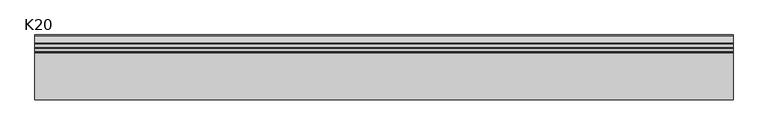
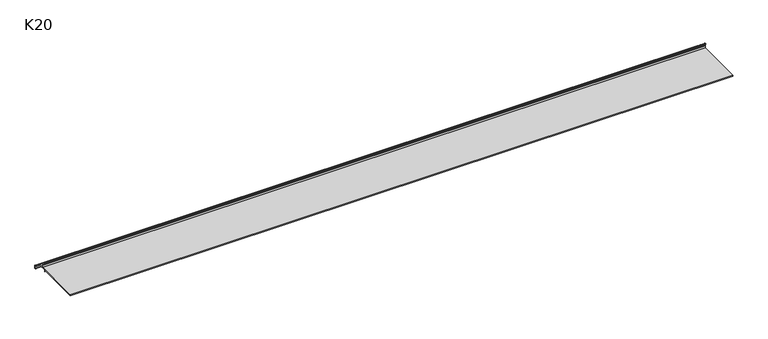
"""IFC4 building model written with IfcOpenShell, lengths in millimetres: proxy geometry, K20 Profil okapowy prosty : K20."""

import ifcopenshell
import ifcopenshell.guid

model = None  # the IFC model being written
_history = None  # IfcOwnerHistory: only IFC2X3 demands one
_inside = {}  # id of a spatial element -> (the spatial element, [elements in it])
_under = {}  # id of a project, library or spatial element -> (it, [spatial elements below it])
_declared = {}  # id of a project -> (the project, [libraries it declares])
_typed = {}  # id of a type object -> (the type object, [elements of that type])
_made_of = {}  # id of a material, layer set ... -> (it, [elements and type objects made of it])


def new_model(schema):
    """Start an empty IFC model of exactly this schema.

    Asked for "IFC4X3", IfcOpenShell would pick the latest addendum, in which some entities
    have other attributes; the version numbers below select the first issue.
    IFC2X3 requires an IfcOwnerHistory on every rooted entity: one is made here for all.
    """
    global model, _history
    if schema == "IFC4X3":
        model = ifcopenshell.file(schema_version=(4, 3, 0, 0))
    else:
        model = ifcopenshell.file(schema=schema)
    _inside.clear()
    _under.clear()
    _declared.clear()
    _typed.clear()
    _made_of.clear()
    _history = None
    if model.schema == "IFC2X3":
        org = make("IfcOrganization", Name="unknown")
        user = make(
            "IfcPersonAndOrganization",
            ThePerson=make("IfcPerson", FamilyName="unknown"),
            TheOrganization=org,
        )
        app = make(
            "IfcApplication",
            ApplicationDeveloper=org,
            Version="unknown",
            ApplicationFullName="unknown",
            ApplicationIdentifier="unknown",
        )
        _history = make(
            "IfcOwnerHistory",
            OwningUser=user,
            OwningApplication=app,
            ChangeAction="ADDED",
            CreationDate=0,
        )
    return model


def make(cls, **values):
    """One entity of the class cls with the attributes given. An attribute that is None is left unset."""
    return model.create_entity(
        cls, **{name: value for name, value in values.items() if value is not None}
    )


def rooted(cls, **values):
    """An entity with a GlobalId (a new one), such as an element, a storey or a relation."""
    return make(cls, GlobalId=ifcopenshell.guid.new(), OwnerHistory=_history, **values)


def si_unit(unit_type, name, prefix=None):
    """IfcSIUnit, for example si_unit("LENGTHUNIT", "METRE", prefix="MILLI")."""
    return make("IfcSIUnit", UnitType=unit_type, Prefix=prefix, Name=name)


def assignment(units):
    """IfcUnitAssignment: the units of a project."""
    return None if units is None else make("IfcUnitAssignment", Units=units)


def point(xyz):
    """IfcCartesianPoint."""
    return None if xyz is None else make("IfcCartesianPoint", Coordinates=xyz)


def direction(xyz):
    """IfcDirection."""
    return None if xyz is None else make("IfcDirection", DirectionRatios=xyz)


def frame(location, z_axis=None, x_axis=None):
    """IfcAxis2Placement3D, a coordinate frame: its origin and axes. An axis left out is left unset."""
    return make(
        "IfcAxis2Placement3D",
        Location=point(location),
        Axis=direction(z_axis),
        RefDirection=direction(x_axis),
    )


def origin():
    """The frame at (0, 0, 0) with its axes left unset."""
    return frame((0.0, 0.0, 0.0))


def place(relative_to, where):
    """IfcLocalPlacement: puts the frame where relative to a parent placement (None: the world)."""
    return make(
        "IfcLocalPlacement", PlacementRelTo=relative_to, RelativePlacement=where
    )


def context(
    kind, dimensions, precision=None, world=None, true_north=None, identifier=None
):
    """IfcGeometricRepresentationContext, for example the 3D "Model" context."""
    return make(
        "IfcGeometricRepresentationContext",
        ContextIdentifier=identifier,
        ContextType=kind,
        CoordinateSpaceDimension=dimensions,
        Precision=precision,
        WorldCoordinateSystem=world,
        TrueNorth=true_north,
    )


def project(units=None, contexts=None):
    """IfcProject with its units and contexts."""
    return rooted(
        "IfcProject",
        Name="project",
        RepresentationContexts=contexts,
        UnitsInContext=assignment(units),
    )


def spatial(cls, under=None, at=None, **own):
    """A site, building, storey or space (cls), placed at a placement, below another one or the project."""
    s = rooted(cls, ObjectPlacement=at, **own)
    if under is not None:
        _under.setdefault(under.id(), (under, []))[1].append(s)
    return s


def polyline(points):
    """IfcPolyline through the points."""
    return make("IfcPolyline", Points=[point(p) for p in points])


def circle_curve(where, radius):
    """IfcCircle in the frame where."""
    return make("IfcCircle", Position=where, Radius=radius)


def shape(context_of_items, identifier, shape_type, items):
    """IfcShapeRepresentation: the items that make up one representation, for example the "Body"."""
    return make(
        "IfcShapeRepresentation",
        ContextOfItems=context_of_items,
        RepresentationIdentifier=identifier,
        RepresentationType=shape_type,
        Items=items,
    )


def source(mapping_origin, context_of_items, identifier, shape_type, items):
    """IfcRepresentationMap: a shape defined once, which mapped items show again and again."""
    return make(
        "IfcRepresentationMap",
        MappingOrigin=mapping_origin,
        MappedRepresentation=shape(context_of_items, identifier, shape_type, items),
    )


def transform(
    local_origin,
    x_axis=None,
    y_axis=None,
    z_axis=None,
    scale=None,
    scale2=None,
    scale3=None,
    uniform=True,
):
    """IfcCartesianTransformationOperator3D, or its non-uniform kind. x_axis, y_axis, z_axis: its Axis1, 2, 3."""
    if uniform:
        return make(
            "IfcCartesianTransformationOperator3D",
            Axis1=direction(x_axis),
            Axis2=direction(y_axis),
            LocalOrigin=point(local_origin),
            Scale=scale,
            Axis3=direction(z_axis),
        )
    return make(
        "IfcCartesianTransformationOperator3DnonUniform",
        Axis1=direction(x_axis),
        Axis2=direction(y_axis),
        LocalOrigin=point(local_origin),
        Scale=scale,
        Axis3=direction(z_axis),
        Scale2=scale2,
        Scale3=scale3,
    )


def mapped(mapping_source, mapping_target):
    """IfcMappedItem: shows the shape of a source again, moved by a transform."""
    return make(
        "IfcMappedItem", MappingSource=mapping_source, MappingTarget=mapping_target
    )


def made_of(thing, what):
    """Note that an element or type object is made of a material, layer set ...; save() writes the relation."""
    if what is not None:
        _made_of.setdefault(what.id(), (what, []))[1].append(thing)
    return thing


def element(
    cls,
    number,
    at=None,
    inside=None,
    cuts=None,
    type_object=None,
    material=None,
    context=None,
    identifier="Body",
    shape_type=None,
    held_by="IfcProductDefinitionShape",
    body=None,
    shapes=None,
    **own,
):
    """One element of the class cls, such as IfcWall. Its Tag is "e" and its number.

    at: its placement. inside: the storey or other place that contains it. cuts: it is an
    opening in that element (IfcRelVoidsElement). A single representation is given by context,
    identifier, shape_type and body (its items); several are given by shapes. held_by: the class
    of the entity that holds the representations. save() writes the other relations.
    """
    e = rooted(cls, Tag="e%d" % number, ObjectPlacement=at, **own)
    if body is not None:
        shapes = [shape(context, identifier, shape_type, body)]
    if shapes is not None:
        e.Representation = make(held_by, Representations=shapes)
    if inside is not None:
        _inside.setdefault(inside.id(), (inside, []))[1].append(e)
    if cuts is not None:
        rooted(
            "IfcRelVoidsElement", RelatingBuildingElement=cuts, RelatedOpeningElement=e
        )
    if type_object is not None:
        _typed.setdefault(type_object.id(), (type_object, []))[1].append(e)
    return made_of(e, material)


def aggregate(whole, parts):
    """IfcRelAggregates: a whole, such as a stair, and the parts it consists of."""
    return rooted("IfcRelAggregates", RelatingObject=whole, RelatedObjects=parts)


def save(model, path):
    """Write the relations noted so far, then the file.

    IfcRelAggregates (storeys below a building ...), IfcRelContainedInSpatialStructure (elements
    in a storey), IfcRelDefinesByType, IfcRelAssociatesMaterial and IfcRelDeclares: one each for
    every whole, place, type object, material and project.
    """
    for whole, parts in _under.values():
        aggregate(whole, parts)
    for where, things in _inside.values():
        rooted(
            "IfcRelContainedInSpatialStructure",
            RelatedElements=things,
            RelatingStructure=where,
        )
    for kind, things in _typed.values():
        rooted("IfcRelDefinesByType", RelatedObjects=things, RelatingType=kind)
    for what, things in _made_of.values():
        rooted("IfcRelAssociatesMaterial", RelatedObjects=things, RelatingMaterial=what)
    for by, libraries in _declared.values():
        rooted("IfcRelDeclares", RelatingContext=by, RelatedDefinitions=libraries)
    model.write(path)


def plane_surface(at):
    """IfcPlane: the flat surface through the origin of the frame at, square to its z axis."""
    return make("IfcPlane", Position=at)


def cylinder_surface(at, radius):
    """IfcCylindricalSurface: all points at the distance radius from the z axis of the frame at."""
    return make("IfcCylindricalSurface", Position=at, Radius=radius)


def revolved_surface(curve, axis_point, axis_direction):
    """IfcSurfaceOfRevolution: the curve turned about the line through axis_point along axis_direction."""
    return make(
        "IfcSurfaceOfRevolution",
        SweptCurve=make("IfcArbitraryOpenProfileDef", ProfileType="CURVE", Curve=curve),
        AxisPosition=make("IfcAxis1Placement", Location=point(axis_point), Axis=direction(axis_direction)),
    )


def advanced_brep(points, edges, surfaces, faces):
    """IfcAdvancedBrep: a solid bounded by faces that lie on surfaces and meet in shared edges.

    An edge is (start, end): straight between two places in points (the first is 0);
    or (start, end, curve); or (start, end, curve, False) where it runs against its curve.
    A face is (place in surfaces, loops), or (place, loops, False) where it looks against
    its surface's normal. A loop lists edges by number (the first is 1), with a minus sign
    where the edge is run from its end to its start. The first loop is the outer one.
    """
    corners = [point(p) for p in points]
    vertices = [make("IfcVertexPoint", VertexGeometry=c) for c in corners]
    made = []
    for start, end, *more in edges:
        made.append(
            make(
                "IfcEdgeCurve",
                EdgeStart=vertices[start],
                EdgeEnd=vertices[end],
                EdgeGeometry=more[0] if more else make("IfcPolyline", Points=[corners[start], corners[end]]),
                SameSense=more[1] if len(more) > 1 else True,
            )
        )
    hull = []
    for where, loops, *sense in faces:
        bounds = []
        for j, loop in enumerate(loops):
            ring = [make("IfcOrientedEdge", EdgeElement=made[abs(k) - 1], Orientation=k > 0) for k in loop]
            bounds.append(
                make(
                    "IfcFaceOuterBound" if j == 0 else "IfcFaceBound",
                    Bound=make("IfcEdgeLoop", EdgeList=ring),
                    Orientation=True,
                )
            )
        hull.append(make("IfcAdvancedFace", Bounds=bounds, FaceSurface=surfaces[where], SameSense=sense[0] if sense else True))
    return make("IfcAdvancedBrep", Outer=make("IfcClosedShell", CfsFaces=hull))


def k20_d56da928(model_context):
    return source(origin(), model_context, "Body", "AdvancedBrep", [
        advanced_brep(
        [(0.0, -87.4989572, -10.1021899), (0.0, 2.500569, -10.1021899), (0.0, 2.500569, -5.510882), (0.0, 2.4989019, -4.0499843), (0.0, 0.0197124, -1.5998786), (0.0, 0.0, 0.0), (0.0, 4.0266413, -4.0258099), (0.0, 4.1005689, -5.5101863), (0.0, 4.1008363, -8.0999212), (0.0, 6.0170507, -10.0981654), (0.0, 12.9833846, -10.3902613), (0.0, 14.6847117, -10.9920705), (0.0, 27.7470161, -20.8295524), (0.0, 28.9422346, -23.2256491), (0.0, 28.9426252, -27.0091483), (0.0, 27.2426253, -27.009236), (0.0, 27.2422707, -23.5751141), (0.0, 26.4454583, -21.9775098), (0.0, 13.7120428, -12.3877207), (0.0, 12.8739503, -12.0873026), (0.0, -2.8554668, -11.7961596), (0.0, -2.818506, -14.7959319), (0.0, -3.8184302, -14.8082521), (0.0, -3.8555414, -11.7962628), (0.0, -87.4989572, -11.7962628), (1251.8010067, -87.4989572, -10.1021899), (1251.8010067, -87.4989572, -11.7962628), (1251.8010067, -3.8555414, -11.7962628), (1251.8010067, -3.8184302, -14.8082521), (1251.8010067, -2.818506, -14.7959319), (1251.8010067, -2.8554668, -11.7961596), (1251.8010067, 12.8739503, -12.0873026), (1251.8010067, 13.7120428, -12.3877207), (1251.8010067, 26.4454583, -21.9775098), (1251.8010067, 27.2422707, -23.5751141), (1251.8010067, 27.2422707, -27.009236), (1251.8010067, 28.9426252, -27.0091483), (1251.8010067, 28.9426252, -23.2256491), (1251.8010067, 27.7470161, -20.8295524), (1251.8010067, 14.6847117, -10.9920705), (1251.8010067, 12.9833846, -10.3902613), (1251.8010067, 6.0170507, -10.0981654), (1251.8010067, 4.1008363, -8.0999212), (1251.8010067, 4.1008363, -5.5101863), (1251.8010067, 4.0266413, -4.0258099), (1251.8010067, 0.0, 0.0), (1251.8010067, 0.0197124, -1.5998786), (1251.8010067, 2.4989019, -4.0499843), (1251.8010067, 2.500569, -5.510882), (1251.8010067, 2.500569, -10.1021899)],
        [
            (0, 1),
            (1, 2),
            (2, 3, circle_curve(frame((0.0, -65.5675894, -4.8581062), z_axis=(1.0, 0.0, 0.0), x_axis=(0.0, 0.9999295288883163, 0.011871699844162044)), 68.0712884)),
            (3, 4, circle_curve(frame((0.0, -0.0325847, -4.1321586), z_axis=(1.0, 0.0, 0.0), x_axis=(0.0, 0.020647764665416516, 0.9997868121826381)), 2.53282)),
            (4, 5),
            (5, 6, circle_curve(frame((0.0, -0.4451419, -4.4718752), z_axis=(-1.0, 0.0, 0.0), x_axis=(0.0, 0.9950616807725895, 0.09925850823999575)), 4.4939759)),
            (6, 7, circle_curve(frame((0.0, -10.869654, -5.5117319), z_axis=(-1.0, 0.0, 0.0), x_axis=(0.0, 0.9999999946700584, 0.00010324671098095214)), 14.970223)),
            (7, 8),
            (8, 9, circle_curve(frame((0.0, 6.1008363, -8.0999212), z_axis=(1.0, 0.0, 0.0), x_axis=(0.0, -0.04189282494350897, -0.9991221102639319)), 2.0)),
            (9, 10),
            (10, 11, circle_curve(frame((0.0, 12.8799303, -13.388477), z_axis=(-1.0, 0.0, 0.0), x_axis=(0.0, 0.6015938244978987, 0.7988021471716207)), 3.0)),
            (11, 12),
            (12, 13, circle_curve(frame((0.0, 25.9422346, -23.2259588), z_axis=(-1.0, 0.0, 0.0), x_axis=(0.0, 0.9999999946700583, 0.00010324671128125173)), 3.0)),
            (13, 14),
            (14, 15, circle_curve(frame((0.0, 28.0926252, -27.0091483), z_axis=(-1.0, 0.0, 0.0), x_axis=(0.0, -0.9999999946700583, -0.0001032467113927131)), 0.85)),
            (15, 16),
            (16, 17, circle_curve(frame((0.0, 25.2422707, -23.5751141), z_axis=(1.0, 0.0, 0.0), x_axis=(0.0, 0.6015938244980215, 0.7988021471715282)), 2.0)),
            (17, 18),
            (18, 19, circle_curve(frame((0.0, 12.8482023, -13.4783781), z_axis=(1.0, 0.0, 0.0), x_axis=(0.0, 0.01850629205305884, 0.9998287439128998)), 1.3913138)),
            (19, 20),
            (20, 21),
            (21, 22),
            (22, 23),
            (23, 24),
            (24, 0),
            (25, 26),
            (26, 27),
            (27, 28),
            (28, 29),
            (29, 30),
            (30, 31),
            (31, 32, circle_curve(frame((1251.8010067, 12.8482023, -13.4783781), z_axis=(-1.0, 0.0, 0.0), x_axis=(0.0, 0.01850629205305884, 0.9998287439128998)), 1.3913138)),
            (32, 33),
            (33, 34, circle_curve(frame((1251.8010067, 25.2422707, -23.5751141), z_axis=(-1.0, 0.0, 0.0), x_axis=(0.0, 0.6015938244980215, 0.7988021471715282)), 2.0)),
            (34, 35),
            (35, 36, circle_curve(frame((1251.8010067, 28.0926252, -27.0091483), z_axis=(1.0, 0.0, 0.0), x_axis=(0.0, -0.9999999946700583, -0.0001032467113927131)), 0.85)),
            (36, 37),
            (37, 38, circle_curve(frame((1251.8010067, 25.9422346, -23.2259588), z_axis=(1.0, 0.0, 0.0), x_axis=(0.0, 0.9999999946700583, 0.00010324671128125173)), 3.0)),
            (38, 39),
            (39, 40, circle_curve(frame((1251.8010067, 12.8799303, -13.388477), z_axis=(1.0, 0.0, 0.0), x_axis=(0.0, 0.6015938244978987, 0.7988021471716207)), 3.0)),
            (40, 41),
            (41, 42, circle_curve(frame((1251.8010067, 6.1008363, -8.0999212), z_axis=(-1.0, 0.0, 0.0), x_axis=(0.0, -0.04189282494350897, -0.9991221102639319)), 2.0)),
            (42, 43),
            (43, 44, circle_curve(frame((1251.8010067, -10.869654, -5.5117319), z_axis=(1.0, 0.0, 0.0), x_axis=(0.0, 0.9999999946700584, 0.00010324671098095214)), 14.970223)),
            (44, 45, circle_curve(frame((1251.8010067, -0.4451419, -4.4718752), z_axis=(1.0, 0.0, 0.0), x_axis=(0.0, 0.9950616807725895, 0.09925850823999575)), 4.4939759)),
            (45, 46),
            (46, 47, circle_curve(frame((1251.8010067, -0.0325847, -4.1321586), z_axis=(-1.0, 0.0, 0.0), x_axis=(0.0, 0.020647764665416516, 0.9997868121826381)), 2.53282)),
            (47, 48, circle_curve(frame((1251.8010067, -65.5675894, -4.8581062), z_axis=(-1.0, 0.0, 0.0), x_axis=(0.0, 0.9999295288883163, 0.011871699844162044)), 68.0712884)),
            (48, 49),
            (49, 25),
            (7, 43),
            (42, 8),
            (6, 44),
            (5, 45),
            (4, 46),
            (3, 47),
            (2, 48),
            (1, 49),
            (41, 9),
            (24, 26),
            (25, 0),
            (23, 27),
            (22, 28),
            (21, 29),
            (20, 30),
            (19, 31),
            (18, 32),
            (17, 33),
            (16, 34),
            (15, 35),
            (14, 36),
            (13, 37),
            (12, 38),
            (11, 39),
            (10, 40),
        ],
        [
            plane_surface(frame((0.0, 0.0, 0.0), z_axis=(-1.0, 0.0, 0.0), x_axis=(0.0, 0.0, 1.0))),
            plane_surface(frame((1251.8010067, 0.0, 0.0), z_axis=(1.0, 0.0, 0.0), x_axis=(0.0, 0.0, 1.0))),
            plane_surface(frame((0.0, 4.1008363, -8.0999212), z_axis=(0.0, 1.0, 0.0), x_axis=(1.0, 0.0, 0.0))),
            cylinder_surface(frame((0.0, -10.869654, -5.5117319), z_axis=(-1.0000000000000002, 0.0, 0.0), x_axis=(0.0, 0.9999999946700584, 0.00010324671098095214)), 14.970223),
            cylinder_surface(frame((0.0, -0.4451419, -4.4718752), z_axis=(-1.0000000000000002, 0.0, 0.0), x_axis=(0.0, 0.9950616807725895, 0.09925850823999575)), 4.4939759),
            plane_surface(frame((0.0, 0.0, 0.0), z_axis=(0.0, -0.9999241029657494, -0.012320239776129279), x_axis=(1.0, 0.0, 0.0))),
            revolved_surface(polyline([(1251.8010067, 0.01971237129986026, -1.599878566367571), (0.0, 0.01971237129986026, -1.599878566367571)]), (0.0, -0.0325847, -4.1321586), (1.0, 0.0, 0.0)),
            revolved_surface(polyline([(1251.8010067, 2.498901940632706, -4.049984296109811), (0.0, 2.498901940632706, -4.049984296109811)]), (0.0, -65.5675894, -4.8581062), (1.0, 0.0, 0.0)),
            plane_surface(frame((0.0, 2.500569, -5.510882), z_axis=(0.0, -1.0, 0.0), x_axis=(1.0, 0.0, 0.0))),
            revolved_surface(polyline([(1251.8010067, 6.017050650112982, -10.098165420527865), (0.0, 6.017050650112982, -10.098165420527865)]), (0.0, 6.1008363, -8.0999212), (1.0, 0.0, 0.0)),
            plane_surface(frame((0.0, -87.4989572, -10.1021899), z_axis=(0.0, -1.0, 0.0), x_axis=(1.0, 0.0, 0.0))),
            plane_surface(frame((0.0, -87.4989572, -11.7962628), z_axis=(0.0, 0.0, -1.0), x_axis=(1.0, 0.0, 0.0))),
            plane_surface(frame((0.0, -3.8555414, -11.7962628), z_axis=(0.0, -0.9999241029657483, -0.012320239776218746), x_axis=(1.0, 0.0, 0.0))),
            plane_surface(frame((0.0, -3.8184302, -14.8082521), z_axis=(0.0, 0.01232023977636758, -0.9999241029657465), x_axis=(1.0, 0.0, 0.0))),
            plane_surface(frame((0.0, -2.818506, -14.7959319), z_axis=(0.0, 0.9999241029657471, 0.012320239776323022), x_axis=(1.0, 0.0, 0.0))),
            plane_surface(frame((0.0, -2.8554668, -11.7961596), z_axis=(0.0, -0.01850629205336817, -0.999828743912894), x_axis=(1.0, 0.0, 0.0))),
            revolved_surface(polyline([(1251.8010067, 12.873950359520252, -12.087302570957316), (0.0, 12.873950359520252, -12.087302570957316)]), (0.0, 12.8482023, -13.4783781), (1.0, 0.0, 0.0)),
            plane_surface(frame((0.0, 13.7120428, -12.3877207), z_axis=(0.0, -0.6015938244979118, -0.7988021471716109), x_axis=(1.0, 0.0, 0.0))),
            revolved_surface(polyline([(1251.8010067, 26.44545834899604, -21.977509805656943), (0.0, 26.44545834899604, -21.977509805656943)]), (0.0, 25.2422707, -23.5751141), (1.0, 0.0, 0.0)),
            plane_surface(frame((0.0, 27.2422707, -23.5751141), z_axis=(0.0, -1.0, 0.0), x_axis=(1.0, 0.0, 0.0))),
            cylinder_surface(frame((0.0, 28.0926252, -27.0091483), z_axis=(-1.0, 0.0, 0.0), x_axis=(0.0, -0.9999999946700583, -0.0001032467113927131)), 0.85),
            plane_surface(frame((0.0, 28.9426252, -27.0091483), z_axis=(0.0, 1.0, 0.0), x_axis=(1.0, 0.0, 0.0))),
            cylinder_surface(frame((0.0, 25.9422346, -23.2259588), z_axis=(-1.0, 0.0, 0.0), x_axis=(0.0, 0.9999999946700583, 0.00010324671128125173)), 3.0),
            plane_surface(frame((0.0, 27.7470161, -20.8295524), z_axis=(0.0, 0.6015938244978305, 0.798802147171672), x_axis=(1.0, 0.0, 0.0))),
            cylinder_surface(frame((0.0, 12.8799303, -13.388477), z_axis=(-1.0, 0.0, 0.0), x_axis=(0.0, 0.6015938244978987, 0.7988021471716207)), 3.0),
            plane_surface(frame((0.0, 12.9833846, -10.3902613), z_axis=(0.0, 0.04189282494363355, 0.9991221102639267), x_axis=(1.0, 0.0, 0.0))),
            plane_surface(frame((0.0, 2.500569, -10.1021899), z_axis=(0.0, 0.0, 1.0), x_axis=(1.0, 0.0, 0.0))),
        ],
        [
            (0, [[1, 2, 3, 4, 5, 6, 7, 8, 9, 10, 11, 12, 13, 14, 15, 16, 17, 18, 19, 20, 21, 22, 23, 24, 25]]),
            (1, [[26, 27, 28, 29, 30, 31, 32, 33, 34, 35, 36, 37, 38, 39, 40, 41, 42, 43, 44, 45, 46, 47, 48, 49, 50]]),
            (2, [[51, -43, 52, -8]]),
            (3, [[53, -44, -51, -7]]),
            (4, [[54, -45, -53, -6]]),
            (5, [[55, -46, -54, -5]]),
            (6, [[56, -47, -55, -4]]),
            (7, [[57, -48, -56, -3]]),
            (8, [[58, -49, -57, -2]]),
            (9, [[-52, -42, 59, -9]]),
            (10, [[60, -26, 61, -25]]),
            (11, [[62, -27, -60, -24]]),
            (12, [[63, -28, -62, -23]]),
            (13, [[64, -29, -63, -22]]),
            (14, [[65, -30, -64, -21]]),
            (15, [[66, -31, -65, -20]]),
            (16, [[67, -32, -66, -19]]),
            (17, [[68, -33, -67, -18]]),
            (18, [[69, -34, -68, -17]]),
            (19, [[70, -35, -69, -16]]),
            (20, [[71, -36, -70, -15]]),
            (21, [[72, -37, -71, -14]]),
            (22, [[73, -38, -72, -13]]),
            (23, [[74, -39, -73, -12]]),
            (24, [[75, -40, -74, -11]]),
            (25, [[-59, -41, -75, -10]]),
            (26, [[-61, -50, -58, -1]]),
        ],
    ),
    ])


if __name__ == "__main__":
    model = new_model("IFC4")
    model_context = context("Model", 3, world=origin())
    ifc_project = project(units=[si_unit("LENGTHUNIT", "METRE", prefix="MILLI")], contexts=[model_context])
    site = spatial("IfcSite", under=ifc_project)
    building = spatial("IfcBuilding", under=site)
    placement = place(None, origin())
    k20_shape = k20_d56da928(model_context)
    element("IfcBuildingElementProxy", 1, Name="K20 Profil okapowy prosty : K20", ObjectType="K20 Profil okapowy prosty : K20", at=placement, inside=building, context=model_context, shape_type="MappedRepresentation", body=[
        mapped(k20_shape, transform((0.0, 0.0, 0.0), x_axis=(1.0, 0.0, 0.0), y_axis=(0.0, 1.0, 0.0), z_axis=(0.0, 0.0, 1.0))),
    ])
    save(model, "model.ifc")
